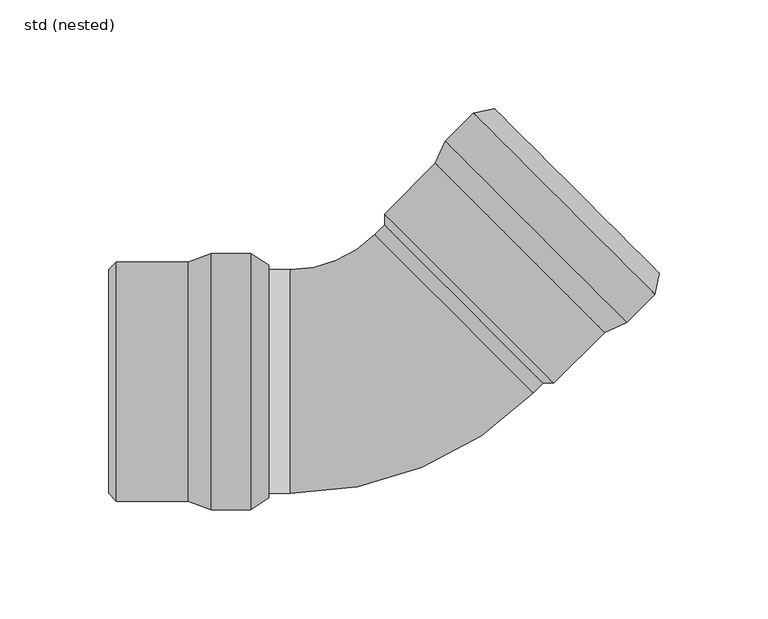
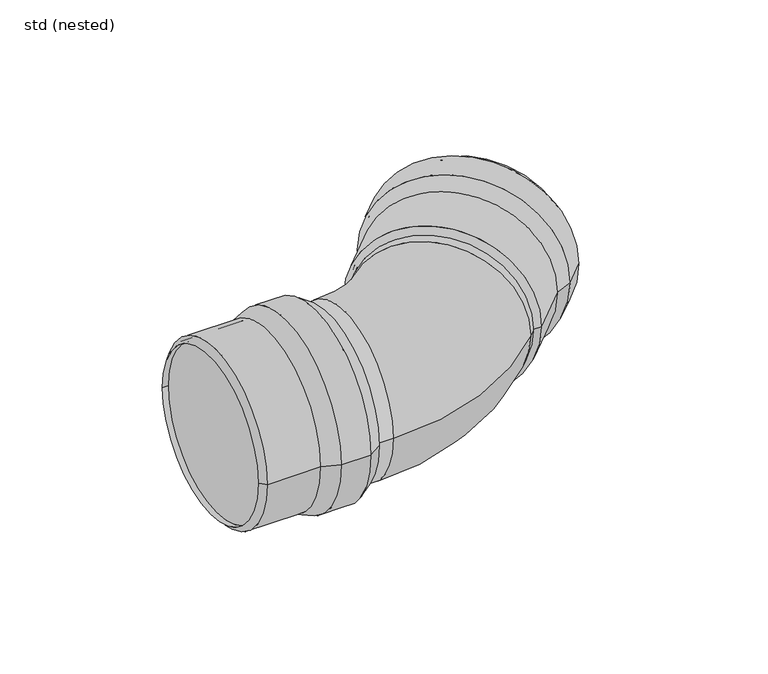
"""IFC4 building model written with IfcOpenShell, lengths in millimetres: pipe fitting geometry, ZZZ_do not use_PIF_ST_UN_GM-X pipe bend_ACO : std (nested)."""

from ifc_helpers import new_model, si_unit, point, frame, origin, place, context, project, spatial, polyline, circle_curve, ellipse_curve, trimmed, source, transform, mapped, element, save
from ifc_brep_helpers import plane_surface, cylinder_surface, revolved_surface, advanced_brep


def std_nested_032e2850(model_context):
    return source(origin(), model_context, "Body", "AdvancedBrep", [
        advanced_brep(
        [(-80.5, -59.0, 0.0), (-80.5, 59.0, 0.0), (-62.3, 59.0, 0.0), (-62.3, -59.0, 0.0), (-91.0, -55.0, 0.0), (-91.0, 55.0, 0.0), (-54.0, 53.5, 0.0), (-54.0, -53.5, 0.0), (-124.0, -55.0, 0.0), (-124.0, 55.0, 0.0), (-127.5, -51.5, 0.0), (-127.5, 51.5, 0.0), (-124.0, -51.5, 0.0), (-124.0, 51.5, 0.0), (-90.6319487, -53.0, 0.0), (-90.6319487, 53.0, 0.0), (-124.0, 53.0, 0.0), (-124.0, -53.0, 0.0), (-80.1319487, -57.0, 0.0), (-80.1319487, 57.0, 0.0), (-62.9025117, -57.0, 0.0), (-62.9025117, 57.0, 0.0), (-55.1047607, -51.8328156, 0.0), (-55.1047607, 51.8328156, 0.0)],
        [
            (0, 1, circle_curve(frame((-80.5, 0.0, 0.0), z_axis=(1.0, 0.0, 0.0), x_axis=(0.0, 1.0, 0.0)), 59.0)),
            (1, 2),
            (2, 3, circle_curve(frame((-62.3, 0.0, 0.0), z_axis=(-1.0, 0.0, 0.0), x_axis=(0.0, 1.0, 0.0)), 59.0)),
            (3, 0),
            (1, 0, circle_curve(frame((-80.5, 0.0, 0.0), z_axis=(1.0, 0.0, 0.0), x_axis=(0.0, 1.0, 0.0)), 59.0)),
            (3, 2, circle_curve(frame((-62.3, 0.0, 0.0), z_axis=(-1.0, 0.0, 0.0), x_axis=(0.0, 1.0, 0.0)), 59.0)),
            (4, 5, circle_curve(frame((-91.0, 0.0, 0.0), z_axis=(1.0, 0.0, 0.0), x_axis=(0.0, 1.0, 0.0)), 55.0)),
            (5, 1),
            (0, 4),
            (5, 4, circle_curve(frame((-91.0, 0.0, 0.0), z_axis=(1.0, 0.0, 0.0), x_axis=(0.0, 1.0, 0.0)), 55.0)),
            (2, 6),
            (6, 7, circle_curve(frame((-54.0, 0.0, 0.0), z_axis=(-1.0, 0.0, 0.0), x_axis=(0.0, 1.0, 0.0)), 53.5)),
            (7, 3),
            (7, 6, circle_curve(frame((-54.0, 0.0, 0.0), z_axis=(-1.0, 0.0, 0.0), x_axis=(0.0, 1.0, 0.0)), 53.5)),
            (8, 9, circle_curve(frame((-124.0, 0.0, 0.0), z_axis=(1.0, 0.0, 0.0), x_axis=(0.0, 1.0, 0.0)), 55.0)),
            (9, 5),
            (4, 8),
            (9, 8, circle_curve(frame((-124.0, 0.0, 0.0), z_axis=(1.0, 0.0, 0.0), x_axis=(0.0, 1.0, 0.0)), 55.0)),
            (10, 11, circle_curve(frame((-127.5, 0.0, 0.0), z_axis=(1.0, 0.0, 0.0), x_axis=(0.0, 1.0, 0.0)), 51.5)),
            (11, 9),
            (8, 10),
            (11, 10, circle_curve(frame((-127.5, 0.0, 0.0), z_axis=(1.0, 0.0, 0.0), x_axis=(0.0, 1.0, 0.0)), 51.5)),
            (12, 13, circle_curve(frame((-124.0, 0.0, 0.0), z_axis=(1.0, 0.0, 0.0), x_axis=(0.0, 1.0, 0.0)), 51.5)),
            (13, 11),
            (10, 12),
            (13, 12, circle_curve(frame((-124.0, 0.0, 0.0), z_axis=(1.0, 0.0, 0.0), x_axis=(0.0, 1.0, 0.0)), 51.5)),
            (14, 15, circle_curve(frame((-90.6319487, 0.0, 0.0), z_axis=(1.0, 0.0, 0.0), x_axis=(0.0, 1.0, 0.0)), 53.0)),
            (15, 16),
            (16, 17, circle_curve(frame((-124.0, 0.0, 0.0), z_axis=(-1.0, 0.0, 0.0), x_axis=(0.0, 1.0, 0.0)), 53.0)),
            (17, 14),
            (15, 14, circle_curve(frame((-90.6319487, 0.0, 0.0), z_axis=(1.0, 0.0, 0.0), x_axis=(0.0, 1.0, 0.0)), 53.0)),
            (17, 16, circle_curve(frame((-124.0, 0.0, 0.0), z_axis=(-1.0, 0.0, 0.0), x_axis=(0.0, 1.0, 0.0)), 53.0)),
            (18, 19, circle_curve(frame((-80.1319487, 0.0, 0.0), z_axis=(1.0, 0.0, 0.0), x_axis=(0.0, 1.0, 0.0)), 57.0)),
            (19, 15),
            (14, 18),
            (19, 18, circle_curve(frame((-80.1319487, 0.0, 0.0), z_axis=(1.0, 0.0, 0.0), x_axis=(0.0, 1.0, 0.0)), 57.0)),
            (20, 21, circle_curve(frame((-62.9025117, 0.0, 0.0), z_axis=(1.0, 0.0, 0.0), x_axis=(0.0, 1.0, 0.0)), 57.0)),
            (21, 19),
            (18, 20),
            (21, 20, circle_curve(frame((-62.9025117, 0.0, 0.0), z_axis=(1.0, 0.0, 0.0), x_axis=(0.0, 1.0, 0.0)), 57.0)),
            (22, 23, circle_curve(frame((-55.1047607, 0.0, 0.0), z_axis=(1.0, 0.0, 0.0), x_axis=(0.0, 1.0, 0.0)), 51.8328156)),
            (23, 21),
            (20, 22),
            (23, 22, circle_curve(frame((-55.1047607, 0.0, 0.0), z_axis=(1.0, 0.0, 0.0), x_axis=(0.0, 1.0, 0.0)), 51.8328156)),
            (6, 23),
            (22, 7),
            (16, 13),
            (12, 17),
        ],
        [
            cylinder_surface(frame((-57.3555883, 0.0, 0.0), z_axis=(-1.0, 0.0, 0.0), x_axis=(0.0, 1.0, 0.0)), 59.0),
            revolved_surface(polyline([(-80.5, 59.0, 0.0), (-91.0, 55.0, 0.0)]), (-57.3555883, 0.0, 0.0), (-1.0, 0.0, 0.0)),
            revolved_surface(polyline([(-54.0, 53.5, 0.0), (-62.3, 59.0, 0.0)]), (-57.3555883, 0.0, 0.0), (-1.0, 0.0, 0.0)),
            cylinder_surface(frame((-57.3555883, 0.0, 0.0), z_axis=(-1.0, 0.0, 0.0), x_axis=(0.0, 1.0, 0.0)), 55.0),
            revolved_surface(polyline([(-124.0, 55.0, 0.0), (-127.5, 51.5, 0.0)]), (-57.3555883, 0.0, 0.0), (-1.0, 0.0, 0.0)),
            revolved_surface(polyline([(-127.5, 51.5, 0.0), (-124.0, 51.5, 0.0)]), (-57.3555883, 0.0, 0.0), (-1.0, 0.0, 0.0)),
            revolved_surface(polyline([(-124.0, 53.0, 0.0), (-90.6319487, 53.0, 0.0)]), (-57.3555883, 0.0, 0.0), (-1.0, 0.0, 0.0)),
            revolved_surface(polyline([(-90.6319487, 53.0, 0.0), (-80.1319487, 57.0, 0.0)]), (-57.3555883, 0.0, 0.0), (-1.0, 0.0, 0.0)),
            revolved_surface(polyline([(-80.1319487, 57.0, 0.0), (-62.9025117, 57.0, 0.0)]), (-57.3555883, 0.0, 0.0), (-1.0, 0.0, 0.0)),
            revolved_surface(polyline([(-62.9025117, 57.0, 0.0), (-55.1047607, 51.8328156, 0.0)]), (-57.3555883, 0.0, 0.0), (-1.0, 0.0, 0.0)),
            revolved_surface(polyline([(-55.1047607, 51.8328156, 0.0), (-54.0, 53.5, 0.0)]), (-57.3555883, 0.0, 0.0), (-1.0, 0.0, 0.0)),
            plane_surface(frame((-124.0, 0.0, 0.0), z_axis=(1.0, 0.0, 0.0), x_axis=(0.0, 1.0, 0.0))),
        ],
        [
            (0, [[1, 2, 3, 4]]),
            (0, [[5, -4, 6, -2]]),
            (1, [[7, 8, -1, 9]]),
            (1, [[10, -9, -5, -8]]),
            (2, [[-3, 11, 12, 13]]),
            (2, [[-6, -13, 14, -11]]),
            (3, [[15, 16, -7, 17]]),
            (3, [[18, -17, -10, -16]]),
            (4, [[19, 20, -15, 21]]),
            (4, [[22, -21, -18, -20]]),
            (5, [[23, 24, -19, 25]]),
            (5, [[26, -25, -22, -24]]),
            (6, [[27, 28, 29, 30]]),
            (6, [[31, -30, 32, -28]]),
            (7, [[33, 34, -27, 35]]),
            (7, [[36, -35, -31, -34]]),
            (8, [[37, 38, -33, 39]]),
            (8, [[40, -39, -36, -38]]),
            (9, [[41, 42, -37, 43]]),
            (9, [[44, -43, -40, -42]]),
            (10, [[-12, 45, -41, 46]]),
            (10, [[-14, -46, -44, -45]]),
            (11, [[-29, 47, -23, 48]]),
            (11, [[-32, -48, -26, -47]]),
        ],
    ),
        advanced_brep(
        [(110.6622113, 27.2236111, 0.0), (27.2236111, 110.6622113, 0.0), (40.0929545, 123.5315547, 0.0), (123.5315547, 40.0929545, 0.0), (100.4091629, 22.627417, 0.0), (22.627417, 100.4091629, 0.0), (49.8510281, 125.5114537, 0.0), (125.5114537, 49.8510281, 0.0), (77.0746391, -0.7071068, 0.0), (-0.7071068, 77.0746391, 0.0), (72.1248917, -0.7071068, 0.0), (-0.7071068, 72.1248917, 0.0), (74.5997654, 1.767767, 0.0), (1.767767, 74.5997654, 0.0), (99.2552009, 24.3018821, 0.0), (24.3018821, 99.2552009, 0.0), (0.7071068, 75.6604256, 0.0), (75.6604256, 0.7071068, 0.0), (109.5082492, 28.8980762, 0.0), (28.8980762, 109.5082492, 0.0), (121.691301, 41.081128, 0.0), (41.081128, 121.691301, 0.0), (123.5513925, 50.2487216, 0.0), (50.2487216, 123.5513925, 0.0)],
        [
            (0, 1, circle_curve(frame((68.9429112, 68.9429112, 0.0), z_axis=(0.7071067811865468, 0.7071067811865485, 0.0), x_axis=(-0.7071067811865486, 0.7071067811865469, 0.0)), 59.0)),
            (1, 2),
            (2, 3, circle_curve(frame((81.8122546, 81.8122546, 0.0), z_axis=(-0.7071067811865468, -0.7071067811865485, 0.0), x_axis=(-0.7071067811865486, 0.7071067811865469, 0.0)), 59.0)),
            (3, 0),
            (1, 0, circle_curve(frame((68.9429112, 68.9429112, 0.0), z_axis=(0.7071067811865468, 0.7071067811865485, 0.0), x_axis=(-0.7071067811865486, 0.7071067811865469, 0.0)), 59.0)),
            (3, 2, circle_curve(frame((81.8122546, 81.8122546, 0.0), z_axis=(-0.7071067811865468, -0.7071067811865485, 0.0), x_axis=(-0.7071067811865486, 0.7071067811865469, 0.0)), 59.0)),
            (4, 5, circle_curve(frame((61.51829, 61.51829, 0.0), z_axis=(0.7071067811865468, 0.7071067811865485, 0.0), x_axis=(-0.7071067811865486, 0.7071067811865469, 0.0)), 55.0)),
            (5, 1),
            (0, 4),
            (5, 4, circle_curve(frame((61.51829, 61.51829, 0.0), z_axis=(0.7071067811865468, 0.7071067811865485, 0.0), x_axis=(-0.7071067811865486, 0.7071067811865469, 0.0)), 55.0)),
            (2, 6),
            (6, 7, circle_curve(frame((87.6812409, 87.6812409, 0.0), z_axis=(-0.7071067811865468, -0.7071067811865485, 0.0), x_axis=(-0.7071067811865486, 0.7071067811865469, 0.0)), 53.5)),
            (7, 3),
            (7, 6, circle_curve(frame((87.6812409, 87.6812409, 0.0), z_axis=(-0.7071067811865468, -0.7071067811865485, 0.0), x_axis=(-0.7071067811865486, 0.7071067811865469, 0.0)), 53.5)),
            (8, 9, circle_curve(frame((38.1837662, 38.1837662, 0.0), z_axis=(0.7071067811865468, 0.7071067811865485, 0.0), x_axis=(-0.7071067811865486, 0.7071067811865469, 0.0)), 55.0)),
            (9, 5),
            (4, 8),
            (9, 8, circle_curve(frame((38.1837662, 38.1837662, 0.0), z_axis=(0.7071067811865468, 0.7071067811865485, 0.0), x_axis=(-0.7071067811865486, 0.7071067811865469, 0.0)), 55.0)),
            (10, 11, circle_curve(frame((35.7088924, 35.7088924, 0.0), z_axis=(0.7071067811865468, 0.7071067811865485, 0.0), x_axis=(-0.7071067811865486, 0.7071067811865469, 0.0)), 51.5)),
            (11, 9),
            (8, 10),
            (11, 10, circle_curve(frame((35.7088924, 35.7088924, 0.0), z_axis=(0.7071067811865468, 0.7071067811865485, 0.0), x_axis=(-0.7071067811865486, 0.7071067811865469, 0.0)), 51.5)),
            (12, 13, circle_curve(frame((38.1837662, 38.1837662, 0.0), z_axis=(0.7071067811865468, 0.7071067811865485, 0.0), x_axis=(-0.7071067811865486, 0.7071067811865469, 0.0)), 51.5)),
            (13, 11),
            (10, 12),
            (13, 12, circle_curve(frame((38.1837662, 38.1837662, 0.0), z_axis=(0.7071067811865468, 0.7071067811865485, 0.0), x_axis=(-0.7071067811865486, 0.7071067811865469, 0.0)), 51.5)),
            (14, 15, circle_curve(frame((61.7785415, 61.7785415, 0.0), z_axis=(0.7071067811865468, 0.7071067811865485, 0.0), x_axis=(-0.7071067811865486, 0.7071067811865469, 0.0)), 53.0)),
            (15, 16),
            (16, 17, circle_curve(frame((38.1837662, 38.1837662, 0.0), z_axis=(-0.7071067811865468, -0.7071067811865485, 0.0), x_axis=(-0.7071067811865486, 0.7071067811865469, 0.0)), 53.0)),
            (17, 14),
            (15, 14, circle_curve(frame((61.7785415, 61.7785415, 0.0), z_axis=(0.7071067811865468, 0.7071067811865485, 0.0), x_axis=(-0.7071067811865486, 0.7071067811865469, 0.0)), 53.0)),
            (17, 16, circle_curve(frame((38.1837662, 38.1837662, 0.0), z_axis=(-0.7071067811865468, -0.7071067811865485, 0.0), x_axis=(-0.7071067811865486, 0.7071067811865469, 0.0)), 53.0)),
            (18, 19, circle_curve(frame((69.2031627, 69.2031627, 0.0), z_axis=(0.7071067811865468, 0.7071067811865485, 0.0), x_axis=(-0.7071067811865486, 0.7071067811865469, 0.0)), 57.0)),
            (19, 15),
            (14, 18),
            (19, 18, circle_curve(frame((69.2031627, 69.2031627, 0.0), z_axis=(0.7071067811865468, 0.7071067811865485, 0.0), x_axis=(-0.7071067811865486, 0.7071067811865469, 0.0)), 57.0)),
            (20, 21, circle_curve(frame((81.3862145, 81.3862145, 0.0), z_axis=(0.7071067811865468, 0.7071067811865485, 0.0), x_axis=(-0.7071067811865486, 0.7071067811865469, 0.0)), 57.0)),
            (21, 19),
            (18, 20),
            (21, 20, circle_curve(frame((81.3862145, 81.3862145, 0.0), z_axis=(0.7071067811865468, 0.7071067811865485, 0.0), x_axis=(-0.7071067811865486, 0.7071067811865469, 0.0)), 57.0)),
            (22, 23, circle_curve(frame((86.9000571, 86.9000571, 0.0), z_axis=(0.7071067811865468, 0.7071067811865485, 0.0), x_axis=(-0.7071067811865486, 0.7071067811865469, 0.0)), 51.8328156)),
            (23, 21),
            (20, 22),
            (23, 22, circle_curve(frame((86.9000571, 86.9000571, 0.0), z_axis=(0.7071067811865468, 0.7071067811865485, 0.0), x_axis=(-0.7071067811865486, 0.7071067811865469, 0.0)), 51.8328156)),
            (6, 23),
            (22, 7),
            (16, 13),
            (12, 17),
        ],
        [
            cylinder_surface(frame((85.3084816, 85.3084816, 0.0), z_axis=(-0.7071067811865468, -0.7071067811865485, 0.0), x_axis=(-0.7071067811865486, 0.7071067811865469, 0.0)), 59.0),
            revolved_surface(polyline([(27.2236111, 110.6622113, 0.0), (22.627417, 100.4091629, 0.0)]), (85.3084816, 85.3084816, 0.0), (-0.7071067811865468, -0.7071067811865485, 0.0)),
            revolved_surface(polyline([(49.8510281, 125.5114537, 0.0), (40.0929545, 123.5315547, 0.0)]), (85.3084816, 85.3084816, 0.0), (-0.7071067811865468, -0.7071067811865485, 0.0)),
            cylinder_surface(frame((85.3084816, 85.3084816, 0.0), z_axis=(-0.7071067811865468, -0.7071067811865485, 0.0), x_axis=(-0.7071067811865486, 0.7071067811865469, 0.0)), 55.0),
            revolved_surface(polyline([(-0.7071068, 77.0746391, 0.0), (-0.7071068, 72.1248917, 0.0)]), (85.3084816, 85.3084816, 0.0), (-0.7071067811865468, -0.7071067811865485, 0.0)),
            revolved_surface(polyline([(-0.7071068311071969, 72.12489163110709, 0.0), (1.767766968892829, 74.59976543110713, 0.0)]), (85.3084816, 85.3084816, 0.0), (-0.7071067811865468, -0.7071067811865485, 0.0)),
            revolved_surface(polyline([(0.7071067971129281, 75.66042560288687, 0.0), (24.301882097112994, 99.255200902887, 0.0)]), (85.3084816, 85.3084816, 0.0), (-0.7071067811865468, -0.7071067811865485, 0.0)),
            revolved_surface(polyline([(24.3018821, 99.2552009, 0.0), (28.8980762, 109.5082492, 0.0)]), (85.3084816, 85.3084816, 0.0), (-0.7071067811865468, -0.7071067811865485, 0.0)),
            revolved_surface(polyline([(28.898076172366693, 109.50824922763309, 0.0), (41.08112797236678, 121.6913010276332, 0.0)]), (85.3084816, 85.3084816, 0.0), (-0.7071067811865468, -0.7071067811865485, 0.0)),
            revolved_surface(polyline([(41.081128, 121.691301, 0.0), (50.2487216, 123.5513925, 0.0)]), (85.3084816, 85.3084816, 0.0), (-0.7071067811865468, -0.7071067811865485, 0.0)),
            revolved_surface(polyline([(50.2487216, 123.5513925, 0.0), (49.8510281, 125.5114537, 0.0)]), (85.3084816, 85.3084816, 0.0), (-0.7071067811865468, -0.7071067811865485, 0.0)),
            plane_surface(frame((38.1837662, 38.1837662, 0.0), z_axis=(0.7071067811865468, 0.7071067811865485, 0.0), x_axis=(-0.7071067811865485, 0.7071067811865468, 0.0))),
        ],
        [
            (0, [[1, 2, 3, 4]]),
            (0, [[5, -4, 6, -2]]),
            (1, [[7, 8, -1, 9]]),
            (1, [[10, -9, -5, -8]]),
            (2, [[-3, 11, 12, 13]]),
            (2, [[-6, -13, 14, -11]]),
            (3, [[15, 16, -7, 17]]),
            (3, [[18, -17, -10, -16]]),
            (4, [[19, 20, -15, 21]]),
            (4, [[22, -21, -18, -20]]),
            (5, [[23, 24, -19, 25]]),
            (5, [[26, -25, -22, -24]]),
            (6, [[27, 28, 29, 30]]),
            (6, [[31, -30, 32, -28]]),
            (7, [[33, 34, -27, 35]]),
            (7, [[36, -35, -31, -34]]),
            (8, [[37, 38, -33, 39]]),
            (8, [[40, -39, -36, -38]]),
            (9, [[41, 42, -37, 43]]),
            (9, [[44, -43, -40, -42]]),
            (10, [[-12, 45, -41, 46]]),
            (10, [[-14, -46, -44, -45]]),
            (11, [[-29, 47, -23, 48]]),
            (11, [[-32, -48, -26, -47]]),
        ],
    ),
        advanced_brep(
        [(-5.3033009, 67.5286976, 0.0), (-44.0, 51.5, 0.0), (-44.0, -51.5, 0.0), (67.5286976, -5.3033009, 0.0), (31.1126984, 31.1126984, 51.5), (31.1126984, 31.1126984, -51.5), (-124.0, -51.5, 0.0), (-124.0, 51.5, 0.0), (74.5997654, 1.767767, 0.0), (1.767767, 74.5997654, 0.0)],
        [
            (0, 1, circle_curve(frame((-44.0, 106.2253967, 0.0), z_axis=(0.0, 0.0, -1.0), x_axis=(0.0, -1.0, 0.0)), 54.7253967)),
            (1, 2, circle_curve(frame((-44.0, 0.0, 0.0), z_axis=(1.0, 0.0, 0.0), x_axis=(0.0, 1.0, 0.0)), 51.5)),
            (2, 3, circle_curve(frame((-44.0, 106.2253967, 0.0), z_axis=(0.0, 0.0, 1.0), x_axis=(0.0, -1.0, 0.0)), 157.7253967)),
            (3, 4, circle_curve(frame((31.1126984, 31.1126984, 0.0), z_axis=(-0.7071067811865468, -0.7071067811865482, 0.0), x_axis=(-0.7071067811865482, 0.7071067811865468, 0.0)), 51.5)),
            (4, 0, circle_curve(frame((31.1126984, 31.1126984, 0.0), z_axis=(-0.7071067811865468, -0.7071067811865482, 0.0), x_axis=(-0.7071067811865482, 0.7071067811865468, 0.0)), 51.5)),
            (0, 5, circle_curve(frame((31.1126984, 31.1126984, 0.0), z_axis=(-0.7071067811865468, -0.7071067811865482, 0.0), x_axis=(-0.7071067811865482, 0.7071067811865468, 0.0)), 51.5)),
            (5, 3, circle_curve(frame((31.1126984, 31.1126984, 0.0), z_axis=(-0.7071067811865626, -0.7071067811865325, 0.0), x_axis=(-0.7071067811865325, 0.7071067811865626, 0.0)), 51.5)),
            (2, 1, circle_curve(frame((-44.0, 0.0, 0.0), z_axis=(1.0, 0.0, 0.0), x_axis=(0.0, 1.0, 0.0)), 51.5)),
            (6, 7, circle_curve(frame((-124.0, 0.0, 0.0), z_axis=(-1.0, 0.0, 0.0), x_axis=(0.0, 1.0, 0.0)), 51.5)),
            (7, 6, circle_curve(frame((-124.0, 0.0, 0.0), z_axis=(-1.0, 0.0, 0.0), x_axis=(0.0, 1.0, 0.0)), 51.5)),
            (7, 1),
            (2, 6),
            (8, 9, circle_curve(frame((38.1837662, 38.1837662, 0.0), z_axis=(0.7071067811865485, 0.7071067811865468, 0.0), x_axis=(-0.7071067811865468, 0.7071067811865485, 0.0)), 51.5)),
            (9, 8, circle_curve(frame((38.1837662, 38.1837662, 0.0), z_axis=(0.7071067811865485, 0.7071067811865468, 0.0), x_axis=(-0.7071067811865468, 0.7071067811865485, 0.0)), 51.5)),
            (9, 0),
            (3, 8),
        ],
        [
            revolved_surface(trimmed(ellipse_curve(frame((-44.0, 0.0, 0.0), z_axis=(-1.0, 0.0, 0.0), x_axis=(0.0, 1.0, 0.0)), 51.5, 51.5), [point((-44.0, -51.5, 0.0))], [point((-44.0, 51.5, 0.0))], True, "CARTESIAN"), (-44.0, 106.2253967, 0.0), (0.0, 0.0, 1.0)),
            revolved_surface(trimmed(ellipse_curve(frame((-44.0, 0.0, 0.0), z_axis=(-1.0, 0.0, 0.0), x_axis=(0.0, 1.0, 0.0)), 51.5, 51.5), [point((-44.0, 51.5, 0.0))], [point((-44.0, -51.5, 0.0))], True, "CARTESIAN"), (-44.0, 106.2253967, 0.0), (0.0, 0.0, 1.0)),
            plane_surface(frame((-124.0, 51.5, 0.0), z_axis=(-1.0, 0.0, 0.0), x_axis=(0.0, 0.0, -1.0))),
            cylinder_surface(frame((-124.0, 0.0, 0.0), z_axis=(1.0, 0.0, 0.0), x_axis=(0.0, 1.0, 0.0)), 51.5),
            plane_surface(frame((38.1837662, 38.1837662, 0.0), z_axis=(0.7071067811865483, 0.7071067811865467, 0.0), x_axis=(0.0, 0.0, 1.0))),
            cylinder_surface(frame((31.1126984, 31.1126984, 0.0), z_axis=(-0.7071067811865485, -0.7071067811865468, 0.0), x_axis=(-0.7071067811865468, 0.7071067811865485, 0.0)), 51.5),
        ],
        [
            (0, [[1, 2, 3, 4, 5]]),
            (1, [[-1, 6, 7, -3, 8]]),
            (2, [[9, 10]]),
            (3, [[-10, 11, -8, 12]]),
            (3, [[-9, -12, -2, -11]]),
            (4, [[13, 14]]),
            (5, [[-14, 15, -5, -4, 16]]),
            (5, [[-13, -16, -7, -6, -15]]),
        ],
    ),
    ])


if __name__ == "__main__":
    model = new_model("IFC4")
    model_context = context("Model", 3, world=origin())
    ifc_project = project(units=[si_unit("LENGTHUNIT", "METRE", prefix="MILLI")], contexts=[model_context])
    site = spatial("IfcSite", under=ifc_project)
    building = spatial("IfcBuilding", under=site)
    placement = place(None, origin())
    std_nested_shape = std_nested_032e2850(model_context)
    element("IfcPipeFitting", 1, ObjectType="ZZZ_do not use_PIF_ST_UN_GM-X pipe bend_ACO : std (nested)", at=placement, inside=building, context=model_context, shape_type="MappedRepresentation", body=[
        mapped(std_nested_shape, transform((0.0, 0.0, 0.0), x_axis=(1.0, 0.0, 0.0), y_axis=(0.0, 1.0, 0.0), z_axis=(0.0, 0.0, 1.0))),
    ])
    save(model, "model.ifc")
